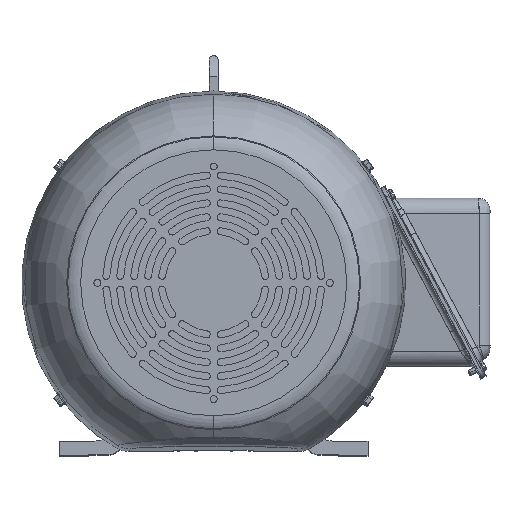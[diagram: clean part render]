
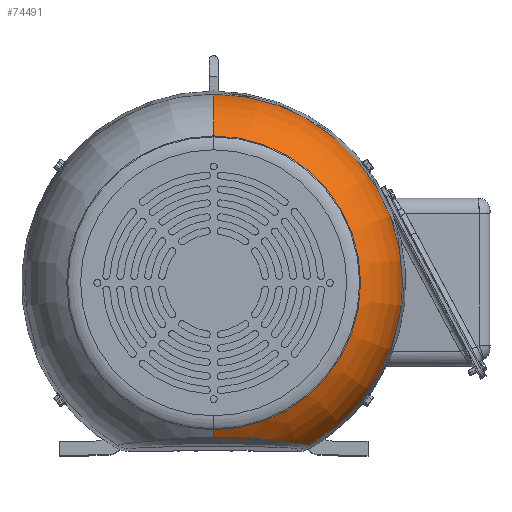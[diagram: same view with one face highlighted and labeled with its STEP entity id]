
A CAD part, top view. The second image highlights one B-rep face of the part: STEP entity #74491.
In plain terms, the highlighted toroidal (fillet/blend) face has major radius 82.42 mm and minor radius 90.419 mm.
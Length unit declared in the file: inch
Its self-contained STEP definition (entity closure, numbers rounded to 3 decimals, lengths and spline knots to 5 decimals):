
#1396 = DIRECTION ( 'NONE',  ( 0., 1., 0. ) ) ;
#2868 = CARTESIAN_POINT ( 'NONE',  ( 0.68396, -5.61294, 4.43286 ) ) ;
#3345 = ORIENTED_EDGE ( 'NONE', *, *, #35970, .T. ) ;
#3463 = CARTESIAN_POINT ( 'NONE',  ( 2.33655, -5.70933, 3.84242 ) ) ;
#4024 = CARTESIAN_POINT ( 'NONE',  ( 3.31376, -5.81928, 2.68244 ) ) ;
#4381 = CARTESIAN_POINT ( 'NONE',  ( 0., 0., 1.8117 ) ) ;
#16487 = CARTESIAN_POINT ( 'NONE',  ( 0.97569, -5.62285, 4.38374 ) ) ;
#17057 = CARTESIAN_POINT ( 'NONE',  ( 2.45756, -5.72004, 3.75828 ) ) ;
#17630 = CARTESIAN_POINT ( 'NONE',  ( 3.33952, -5.82387, 2.61306 ) ) ;
#17987 = DIRECTION ( 'NONE',  ( 0., 1., 0. ) ) ;
#22937 = CARTESIAN_POINT ( 'NONE',  ( 0., -5.60341, 4.47808 ) ) ;
#23620 = ORIENTED_EDGE ( 'NONE', *, *, #97632, .F. ) ;
#27348 = CIRCLE ( 'NONE', #85043, 3.5598 ) ;
#27587 = EDGE_CURVE ( 'NONE', #114340, #122739, #133586, .T. ) ;
#29705 = AXIS2_PLACEMENT_3D ( 'NONE', #75010, #168986, #88515 ) ;
#29924 = CARTESIAN_POINT ( 'NONE',  ( 1.35742, -5.64016, 4.29301 ) ) ;
#30519 = CARTESIAN_POINT ( 'NONE',  ( 2.64943, -5.73808, 3.60678 ) ) ;
#31109 = CARTESIAN_POINT ( 'NONE',  ( 3.38575, -5.83279, 2.47223 ) ) ;
#35643 = CARTESIAN_POINT ( 'NONE',  ( 0., 3.24489, 1.8117 ) ) ;
#35970 = EDGE_CURVE ( 'NONE', #138565, #126294, #121353, .T. ) ;
#39206 = EDGE_CURVE ( 'NONE', #152300, #133676, #164309, .T. ) ;
#42869 = CARTESIAN_POINT ( 'NONE',  ( 0.19465, -5.60401, 4.47532 ) ) ;
#42938 = ORIENTED_EDGE ( 'NONE', *, *, #109213, .T. ) ;
#43444 = CARTESIAN_POINT ( 'NONE',  ( 1.77207, -5.66592, 4.14161 ) ) ;
#44017 = CARTESIAN_POINT ( 'NONE',  ( 2.86007, -5.75985, 3.40236 ) ) ;
#44582 = CARTESIAN_POINT ( 'NONE',  ( 3.44251, -5.84858, 2.18403 ) ) ;
#49076 = DIRECTION ( 'NONE',  ( 0., 0., 1. ) ) ;
#54311 = EDGE_LOOP ( 'NONE', ( #3345, #42938, #100633, #23620, #155855, #166369 ) ) ;
#56950 = CARTESIAN_POINT ( 'NONE',  ( 1.90727, -5.67536, 4.08173 ) ) ;
#57541 = CARTESIAN_POINT ( 'NONE',  ( 3.04686, -5.78137, 3.17378 ) ) ;
#58132 = CARTESIAN_POINT ( 'NONE',  ( 3.45445, -5.85763, 1.98708 ) ) ;
#61382 = DIRECTION ( 'NONE',  ( 1., 0., 0. ) ) ;
#68397 = DIRECTION ( 'NONE',  ( 0., 0., -1. ) ) ;
#69914 = CARTESIAN_POINT ( 'NONE',  ( 0., -5.60341, 4.47808 ) ) ;
#70127 = AXIS2_PLACEMENT_3D ( 'NONE', #148801, #68397, #162332 ) ;
#70471 = CARTESIAN_POINT ( 'NONE',  ( 2.08353, -5.68847, 3.9945 ) ) ;
#71044 = CARTESIAN_POINT ( 'NONE',  ( 3.20226, -5.80177, 2.92687 ) ) ;
#74491 = ADVANCED_FACE ( 'NONE', ( #146171 ), #118917, .T. ) ;
#75010 = CARTESIAN_POINT ( 'NONE',  ( 0., 0., 4.72306 ) ) ;
#81902 = DIRECTION ( 'NONE',  ( 0., 0., -1. ) ) ;
#82932 = CARTESIAN_POINT ( 'NONE',  ( 0., 5.29335, 4.72306 ) ) ;
#83391 = CARTESIAN_POINT ( 'NONE',  ( 0.48793, -5.60819, 4.4557 ) ) ;
#83959 = CARTESIAN_POINT ( 'NONE',  ( 2.29513, -5.70578, 3.8693 ) ) ;
#84558 = CARTESIAN_POINT ( 'NONE',  ( 3.28612, -5.81461, 2.75072 ) ) ;
#84893 = DIRECTION ( 'NONE',  ( 0., 0., -1. ) ) ;
#85043 = AXIS2_PLACEMENT_3D ( 'NONE', #141747, #61382, #155345 ) ;
#88515 = DIRECTION ( 'NONE',  ( 0., 1., 0. ) ) ;
#95275 = CARTESIAN_POINT ( 'NONE',  ( 0., -5.29335, 4.72306 ) ) ;
#96920 = CARTESIAN_POINT ( 'NONE',  ( 0.78163, -5.61589, 4.4185 ) ) ;
#97485 = CARTESIAN_POINT ( 'NONE',  ( 2.41774, -5.71646, 3.78692 ) ) ;
#97632 = EDGE_CURVE ( 'NONE', #122739, #133676, #121507, .T. ) ;
#98060 = CARTESIAN_POINT ( 'NONE',  ( 3.3226, -5.82082, 2.65946 ) ) ;
#98365 = CARTESIAN_POINT ( 'NONE',  ( 0., 6.80037, 1.98708 ) ) ;
#100633 = ORIENTED_EDGE ( 'NONE', *, *, #39206, .T. ) ;
#105841 = AXIS2_PLACEMENT_3D ( 'NONE', #4381, #84893, #17987 ) ;
#109213 = EDGE_CURVE ( 'NONE', #126294, #152300, #27348, .T. ) ;
#110436 = CARTESIAN_POINT ( 'NONE',  ( 1.07182, -5.62683, 4.36339 ) ) ;
#111003 = CARTESIAN_POINT ( 'NONE',  ( 2.5746, -5.73083, 3.66959 ) ) ;
#111592 = CARTESIAN_POINT ( 'NONE',  ( 3.34761, -5.82538, 2.58962 ) ) ;
#114340 = VERTEX_POINT ( 'NONE', #98365 ) ;
#118917 = TOROIDAL_SURFACE ( 'NONE', #105841, 3.24489, 3.5598 ) ;
#120390 = CARTESIAN_POINT ( 'NONE',  ( 3.45445, -5.85763, 1.98708 ) ) ;
#121353 = CIRCLE ( 'NONE', #29705, 5.29335 ) ;
#121507 = CIRCLE ( 'NONE', #70127, 6.80037 ) ;
#122739 = VERTEX_POINT ( 'NONE', #138511 ) ;
#123305 = CARTESIAN_POINT ( 'NONE',  ( 0.09722, -5.60341, 4.47808 ) ) ;
#123880 = CARTESIAN_POINT ( 'NONE',  ( 1.5441, -5.65085, 4.23376 ) ) ;
#124445 = CARTESIAN_POINT ( 'NONE',  ( 2.79214, -5.75258, 3.47319 ) ) ;
#124533 = CIRCLE ( 'NONE', #153523, 3.5598 ) ;
#125016 = CARTESIAN_POINT ( 'NONE',  ( 3.40932, -5.83832, 2.37702 ) ) ;
#126294 = VERTEX_POINT ( 'NONE', #95275 ) ;
#129528 = DIRECTION ( 'NONE',  ( -1., 0., 0. ) ) ;
#133369 = AXIS2_PLACEMENT_3D ( 'NONE', #162370, #81902, #1396 ) ;
#133586 = CIRCLE ( 'NONE', #133369, 6.80037 ) ;
#133676 = VERTEX_POINT ( 'NONE', #120390 ) ;
#137366 = CARTESIAN_POINT ( 'NONE',  ( 1.81745, -5.66902, 4.12224 ) ) ;
#137954 = CARTESIAN_POINT ( 'NONE',  ( 2.98801, -5.77431, 3.25197 ) ) ;
#138511 = CARTESIAN_POINT ( 'NONE',  ( 3.45449, -5.85761, 1.98708 ) ) ;
#138516 = CARTESIAN_POINT ( 'NONE',  ( 3.45214, -5.85331, 2.08623 ) ) ;
#138565 = VERTEX_POINT ( 'NONE', #82932 ) ;
#141289 = EDGE_CURVE ( 'NONE', #138565, #114340, #124533, .T. ) ;
#141747 = CARTESIAN_POINT ( 'NONE',  ( 0., -3.24489, 1.8117 ) ) ;
#146171 = FACE_OUTER_BOUND ( 'NONE', #54311, .T. ) ;
#148801 = CARTESIAN_POINT ( 'NONE',  ( 0., 0., 1.98708 ) ) ;
#150892 = CARTESIAN_POINT ( 'NONE',  ( 1.95171, -5.6786, 4.0606 ) ) ;
#151473 = CARTESIAN_POINT ( 'NONE',  ( 3.15398, -5.7951, 3.01123 ) ) ;
#152300 = VERTEX_POINT ( 'NONE', #22937 ) ;
#153523 = AXIS2_PLACEMENT_3D ( 'NONE', #35643, #129528, #49076 ) ;
#155345 = DIRECTION ( 'NONE',  ( 0., 1., 0. ) ) ;
#155855 = ORIENTED_EDGE ( 'NONE', *, *, #27587, .F. ) ;
#162332 = DIRECTION ( 'NONE',  ( 0., 1., 0. ) ) ;
#162370 = CARTESIAN_POINT ( 'NONE',  ( 0., 0., 1.98708 ) ) ;
#163846 = CARTESIAN_POINT ( 'NONE',  ( 0.38996, -5.6064, 4.46413 ) ) ;
#164309 = B_SPLINE_CURVE_WITH_KNOTS ( 'NONE', 3,
 ( #69914, #123305, #42869, #163846, #83391, #2868, #96920, #16487, #110436, #29924, #123880, #43444, #137366, #56950, #150892, #70471, #164433, #83959, #3463, #97485, #17057, #111003, #30519, #124445, #44017, #137954, #57541, #151473, #71044, #165012, #84558, #4024, #98060, #17630, #111592, #31109, #125016, #44582, #138516, #58132 ),
 .UNSPECIFIED., .F., .F.,
 ( 4, 2, 2, 2, 2, 2, 2, 2, 2, 2, 2, 2, 2, 2, 2, 2, 2, 2, 2, 4 ),
 ( 0.12142, 0.12901, 0.13659, 0.14417, 0.15175, 0.16692, 0.17071, 0.1745, 0.18208, 0.18587, 0.18966, 0.19725, 0.20483, 0.21241, 0.21999, 0.22378, 0.22568, 0.22757, 0.23516, 0.24274 ),
 .UNSPECIFIED. ) ;
#164433 = CARTESIAN_POINT ( 'NONE',  ( 2.16946, -5.69529, 3.9468 ) ) ;
#165012 = CARTESIAN_POINT ( 'NONE',  ( 3.26622, -5.81145, 2.79538 ) ) ;
#166369 = ORIENTED_EDGE ( 'NONE', *, *, #141289, .F. ) ;
#168986 = DIRECTION ( 'NONE',  ( 0., 0., -1. ) ) ;
